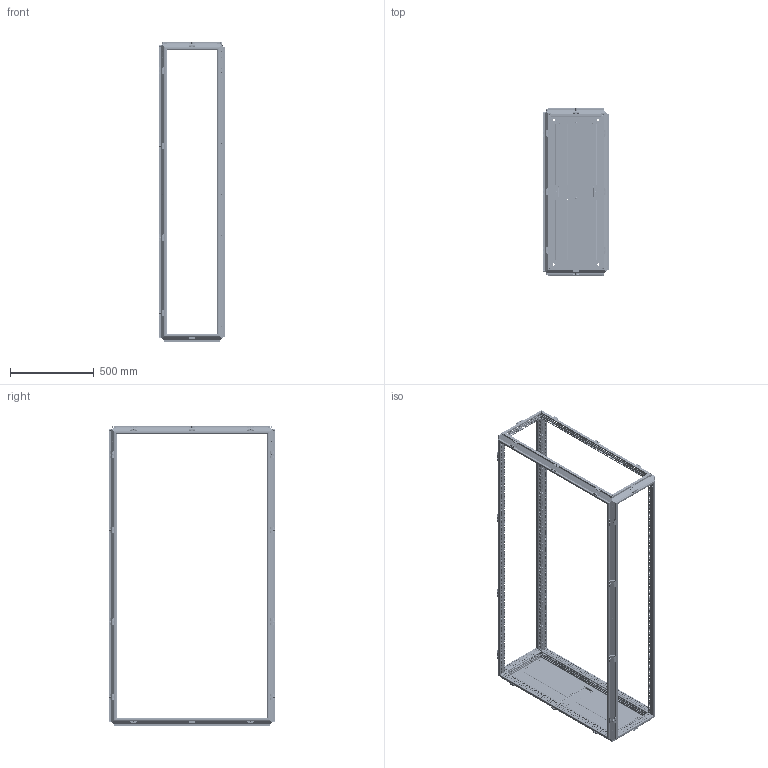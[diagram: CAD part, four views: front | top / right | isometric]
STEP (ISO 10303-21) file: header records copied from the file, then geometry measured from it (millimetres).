
FILE_DESCRIPTION(('STEP AP203'), '1');
FILE_NAME('3000 忺謤僔 捘', '', ('UNSPECIFIED'), ('UNSPECIFIED'), 'C3D Converter', 'C3D Toolkit', '');
FILE_SCHEMA(('CONFIG_CONTROL_DESIGN'));
Length unit declared in the file: millimetre
Products named in the file (13): 3000.180.100.40 СБ; 3000; 3007.175; 3007.75; 3006; 3009.04; 3009.04.01; 3009.04.2; 3009.04.01.2
Assembly tree (138 placements, depth 3):
  3000.180.100.40 СБ
    3000
    (unnamed)  x88
    3007.175  x2
    (unnamed)  x14
    3007.75  x2
    3006
    3009.04  x8
      3009.04.01
      (unnamed)
      (unnamed)
    3009.04.2  x13
      3009.04.01.2
      (unnamed)
      (unnamed)
Bounding box: 397 x 997 x 1798.5 mm (x, y, z)
Volume: 3681584.4 mm3; surface area: 4882788.2 mm2
Topology: 221 solids, 221 shells, 16523 faces, 46243 edges, 30488 vertices
Faces by surface type: plane 11485, cylinder 4070, cone 624, torus 244, bspline 100
Full cylindrical faces by diameter (mm): 4.134 x122, 4.5 x1862, 4.8 x14, 5 x132, 5.8 x34, 6.8 x176, 7 x88, 7.5 x42, 8 x88, 9.2 x42, 10.106 x8, 14 x4
Entity records: 378618 total; most frequent: CARTESIAN_POINT 70115, ORIENTED_EDGE 60758, DIRECTION 57513, EDGE_CURVE 30379, LINE 24919, VECTOR 24919, VERTEX_POINT 21382, EDGE_LOOP 20675
